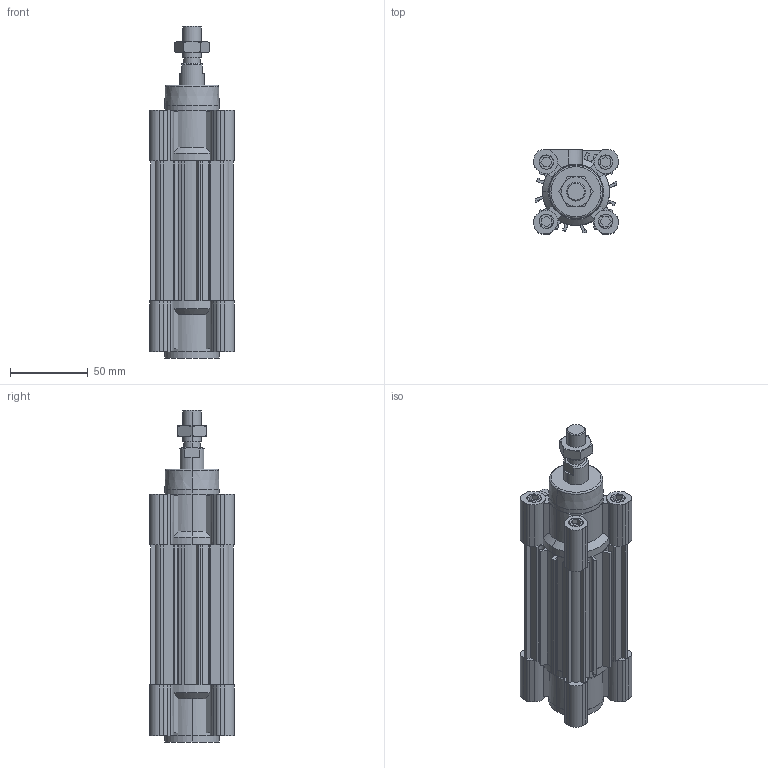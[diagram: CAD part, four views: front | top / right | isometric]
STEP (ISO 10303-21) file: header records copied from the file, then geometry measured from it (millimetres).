
FILE_DESCRIPTION (( 'STEP AP214' ), '1' );
FILE_NAME ('CP96SDB40-50C.step.step', '2020-11-06T21:41:34', ( '' ), ( '' ), 'SwSTEP 2.0', 'SolidWorks 2020', '' );
FILE_SCHEMA (( 'AUTOMOTIVE_DESIGN' ));
Length unit declared in the file: millimetre
Products named in the file (7): CP96SDB40-50C.step_Rod_Nut_12x1.25; CP96SDB40-50C.step_CP96_Cylinder_40; CP96SDB40-50C.step_40_Rod_Cover; CP96SDB40-50C.step; CP96SDB40-50C.step_40_Head_Cover_40; CP96SDB40-50C.step_Tie-rod_40; CP96SDB40-50C.step_C96_Rod_40
Assembly tree (9 placements, depth 2):
  CP96SDB40-50C.step
    CP96SDB40-50C.step_CP96_Cylinder_40
    CP96SDB40-50C.step_40_Rod_Cover
    CP96SDB40-50C.step_40_Head_Cover_40
    CP96SDB40-50C.step_Tie-rod_40  x4
    CP96SDB40-50C.step_C96_Rod_40
    CP96SDB40-50C.step_Rod_Nut_12x1.25
Bounding box: 54 x 54 x 213 mm (x, y, z)
Volume: 302388 mm3; surface area: 113498.7 mm2
Topology: 9 solids, 9 shells, 499 faces, 1288 edges, 840 vertices
Faces by surface type: plane 269, cylinder 172, cone 56, torus 2
Entity records: 13444 total; most frequent: CARTESIAN_POINT 2525, DIRECTION 2274, ORIENTED_EDGE 2196, EDGE_CURVE 1098, AXIS2_PLACEMENT_3D 801, VERTEX_POINT 720, VECTOR 672, LINE 672
